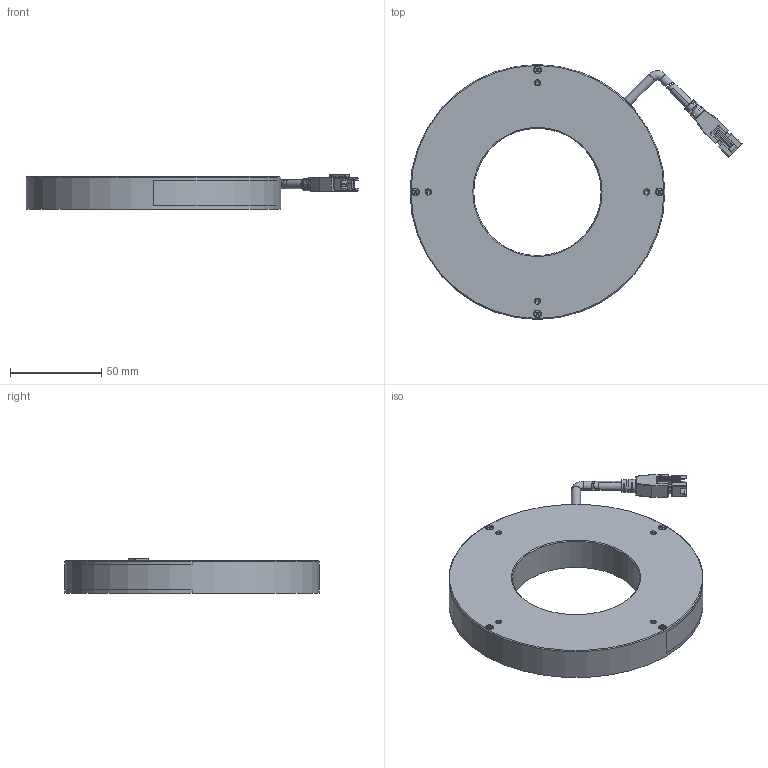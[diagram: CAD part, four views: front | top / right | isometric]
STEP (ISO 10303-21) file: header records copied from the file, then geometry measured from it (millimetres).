
FILE_DESCRIPTION((''),'2;1');
FILE_NAME('MV-LRDS-140-90-X_ASM','2023-09-15T14:18:42',('qiaoxuan5'),(''),'CREO PARAMETRIC BY PTC INC, 2020044','CREO PARAMETRIC BY PTC INC, 2020044','');
FILE_SCHEMA(('CONFIG_CONTROL_DESIGN','SHAPE_APPEARANCE_LAYERS_GROUPS'));
Length unit declared in the file: millimetre
Products named in the file (1): MV-LRDS-140-90-X_ASM
Bounding box: 182.37 x 140 x 19.2 mm (x, y, z)
Volume: 199790 mm3; surface area: 62366.9 mm2
Topology: 2 solids, 10 shells, 519 faces, 1315 edges, 815 vertices
Faces by surface type: plane 265, cylinder 160, cone 58, torus 18, sphere 8, bspline 8, extrusion 2
Entity records: 16898 total; most frequent: CARTESIAN_POINT 3494, DIRECTION 2675, ORIENTED_EDGE 2582, EDGE_CURVE 1291, AXIS2_PLACEMENT_3D 951, VERTEX_POINT 815, VECTOR 773, LINE 771
